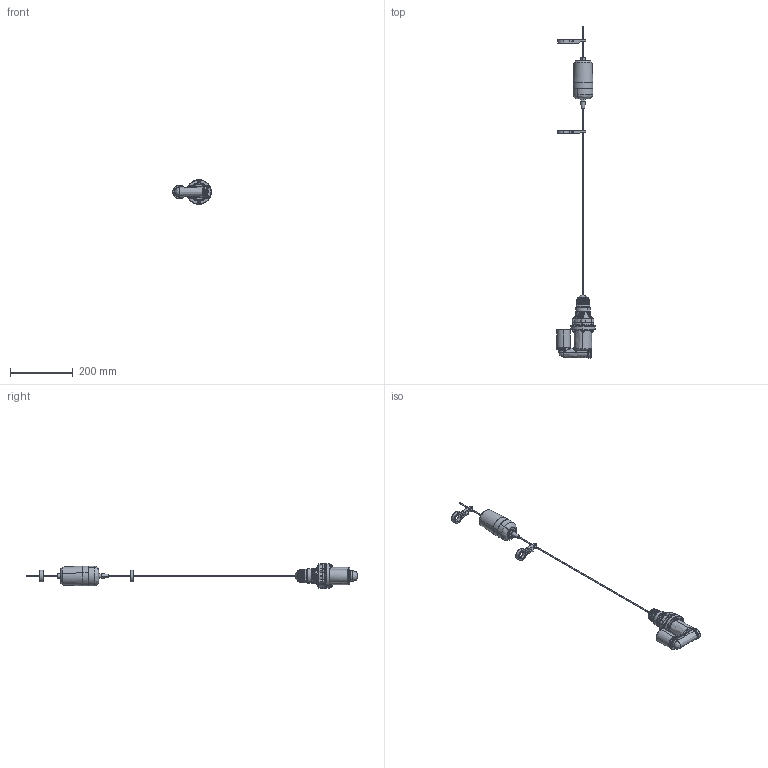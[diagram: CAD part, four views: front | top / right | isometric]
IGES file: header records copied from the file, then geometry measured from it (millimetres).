
Start section: SolidWorks IGES file using NURBS representation for surfaces
Global section: file name: N:\Solid Works\WTC\454BrineValve\Artwork\454BrineHFAssm.IGS; native system: SolidWorks 2012; preprocessor: SolidWorks 2012; author: marshall; date: 130206.112937; units: inch
Bounding box: 122.45 x 1059.39 x 77.8 mm (x, y, z)
Surface area: 127108.6 mm2 (no closed solid volume)
Topology: 0 solids, 0 shells, 666 faces, 13680 edges, 16268 vertices
Faces by surface type: bspline 666
